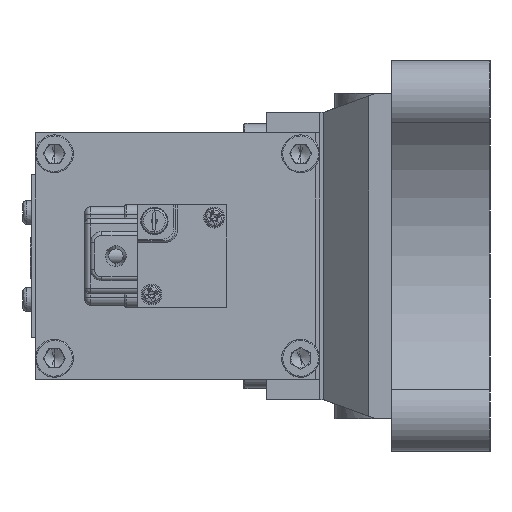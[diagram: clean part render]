
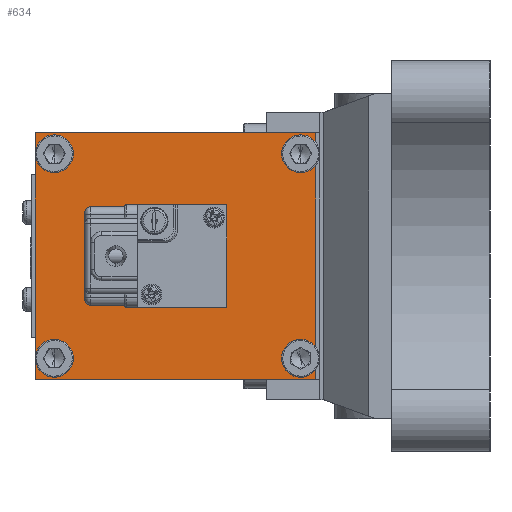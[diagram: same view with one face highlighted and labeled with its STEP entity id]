
A CAD part, left-side view. The second image highlights one B-rep face of the part: STEP entity #634.
In plain terms, the highlighted planar face has unit normal (-1, 0, 0) as drawn and (1, 0, 0) by its records, which use the part's own axes.
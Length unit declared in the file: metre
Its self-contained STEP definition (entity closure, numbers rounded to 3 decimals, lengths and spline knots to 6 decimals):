
#357 = AXIS2_PLACEMENT_3D ( 'NONE', #7548, #12942, #3500 ) ;
#534 = AXIS2_PLACEMENT_3D ( 'NONE', #6110, #15660, #7468 ) ;
#634 = ADVANCED_FACE ( 'NONE', ( #13189, #5969, #6814, #16445, #12748 ), #14386, .F. ) ;
#894 = CARTESIAN_POINT ( 'NONE',  ( 0.08, 0.071, 0.024 ) ) ;
#1059 = ORIENTED_EDGE ( 'NONE', *, *, #12999, .F. ) ;
#1236 = VERTEX_POINT ( 'NONE', #2305 ) ;
#1394 = EDGE_CURVE ( 'NONE', #4933, #13611, #11024, .T. ) ;
#1783 = EDGE_LOOP ( 'NONE', ( #4243, #7474 ) ) ;
#1960 = DIRECTION ( 'NONE',  ( 0., 0., 1. ) ) ;
#2291 = VERTEX_POINT ( 'NONE', #11773 ) ;
#2305 = CARTESIAN_POINT ( 'NONE',  ( 0.08, 0.071, -0.024 ) ) ;
#2536 = ORIENTED_EDGE ( 'NONE', *, *, #1394, .F. ) ;
#2635 = CARTESIAN_POINT ( 'NONE',  ( 0.08, 0.039, 0.0325 ) ) ;
#2669 = VECTOR ( 'NONE', #3836, 1. ) ;
#3051 = EDGE_LOOP ( 'NONE', ( #15614, #1059 ) ) ;
#3072 = EDGE_LOOP ( 'NONE', ( #6473, #3743 ) ) ;
#3500 = DIRECTION ( 'NONE',  ( 0., 0., 1. ) ) ;
#3743 = ORIENTED_EDGE ( 'NONE', *, *, #13129, .F. ) ;
#3797 = DIRECTION ( 'NONE',  ( 1., 0., 0. ) ) ;
#3836 = DIRECTION ( 'NONE',  ( 0., 0., -1. ) ) ;
#4016 = ORIENTED_EDGE ( 'NONE', *, *, #14388, .F. ) ;
#4130 = AXIS2_PLACEMENT_3D ( 'NONE', #6013, #15568, #7382 ) ;
#4243 = ORIENTED_EDGE ( 'NONE', *, *, #12502, .F. ) ;
#4307 = DIRECTION ( 'NONE',  ( 1., 0., 0. ) ) ;
#4561 = CARTESIAN_POINT ( 'NONE',  ( 0.08, 0.039, -0.0325 ) ) ;
#4896 = CIRCLE ( 'NONE', #8022, 0.003 ) ;
#4933 = VERTEX_POINT ( 'NONE', #11488 ) ;
#5086 = AXIS2_PLACEMENT_3D ( 'NONE', #16175, #7972, #17563 ) ;
#5126 = CIRCLE ( 'NONE', #9594, 0.003 ) ;
#5383 = VERTEX_POINT ( 'NONE', #894 ) ;
#5807 = VERTEX_POINT ( 'NONE', #13868 ) ;
#5860 = DIRECTION ( 'NONE',  ( 1., 0., 0. ) ) ;
#5902 = DIRECTION ( 'NONE',  ( 0., -1., 0. ) ) ;
#5969 = FACE_BOUND ( 'NONE', #3072, .T. ) ;
#6013 = CARTESIAN_POINT ( 'NONE',  ( 0.08, 0.006, 0.027 ) ) ;
#6095 = CARTESIAN_POINT ( 'NONE',  ( 0.08, 0.071, -0.027 ) ) ;
#6110 = CARTESIAN_POINT ( 'NONE',  ( 0.08, 0.006, -0.027 ) ) ;
#6473 = ORIENTED_EDGE ( 'NONE', *, *, #9490, .F. ) ;
#6521 = CARTESIAN_POINT ( 'NONE',  ( 0.08, 0.076, -0.0325 ) ) ;
#6669 = VERTEX_POINT ( 'NONE', #8295 ) ;
#6727 = DIRECTION ( 'NONE',  ( 1., 0., 0. ) ) ;
#6814 = FACE_BOUND ( 'NONE', #14643, .T. ) ;
#6959 = CIRCLE ( 'NONE', #4130, 0.003 ) ;
#6979 = CARTESIAN_POINT ( 'NONE',  ( 0.08, 0.002, 0.0325 ) ) ;
#6987 = VECTOR ( 'NONE', #9325, 1. ) ;
#7265 = CARTESIAN_POINT ( 'NONE',  ( 0.08, 0.076, 0. ) ) ;
#7382 = DIRECTION ( 'NONE',  ( 0., 0., -1. ) ) ;
#7428 = VECTOR ( 'NONE', #1960, 1. ) ;
#7454 = DIRECTION ( 'NONE',  ( 0., 0., -1. ) ) ;
#7468 = DIRECTION ( 'NONE',  ( 0., 0., -1. ) ) ;
#7474 = ORIENTED_EDGE ( 'NONE', *, *, #9533, .F. ) ;
#7548 = CARTESIAN_POINT ( 'NONE',  ( 0.08, 0.002, -0.0325 ) ) ;
#7605 = VECTOR ( 'NONE', #5902, 1. ) ;
#7933 = ORIENTED_EDGE ( 'NONE', *, *, #11405, .F. ) ;
#7972 = DIRECTION ( 'NONE',  ( 1., 0., 0. ) ) ;
#7988 = EDGE_CURVE ( 'NONE', #12205, #16025, #16685, .T. ) ;
#8022 = AXIS2_PLACEMENT_3D ( 'NONE', #12395, #4307, #13759 ) ;
#8174 = VERTEX_POINT ( 'NONE', #15105 ) ;
#8269 = CIRCLE ( 'NONE', #9264, 0.003 ) ;
#8295 = CARTESIAN_POINT ( 'NONE',  ( 0.08, 0.071, 0.03 ) ) ;
#9264 = AXIS2_PLACEMENT_3D ( 'NONE', #11875, #3797, #13249 ) ;
#9325 = DIRECTION ( 'NONE',  ( 0., 1., 0. ) ) ;
#9490 = EDGE_CURVE ( 'NONE', #12128, #1236, #13172, .T. ) ;
#9533 = EDGE_CURVE ( 'NONE', #5807, #13741, #5126, .T. ) ;
#9594 = AXIS2_PLACEMENT_3D ( 'NONE', #14881, #6727, #16295 ) ;
#9843 = EDGE_CURVE ( 'NONE', #2291, #8174, #8269, .T. ) ;
#9964 = EDGE_CURVE ( 'NONE', #13611, #12205, #17500, .T. ) ;
#10172 = EDGE_CURVE ( 'NONE', #5383, #6669, #4896, .T. ) ;
#10248 = CARTESIAN_POINT ( 'NONE',  ( 0.08, 0.071, -0.03 ) ) ;
#10428 = CARTESIAN_POINT ( 'NONE',  ( 0.08, 0.076, 0.0325 ) ) ;
#10988 = AXIS2_PLACEMENT_3D ( 'NONE', #13983, #5860, #15405 ) ;
#11024 = LINE ( 'NONE', #15522, #7428 ) ;
#11244 = CARTESIAN_POINT ( 'NONE',  ( 0.08, 0.006, -0.03 ) ) ;
#11405 = EDGE_CURVE ( 'NONE', #16025, #4933, #15733, .T. ) ;
#11488 = CARTESIAN_POINT ( 'NONE',  ( 0.08, 0.002, -0.0325 ) ) ;
#11773 = CARTESIAN_POINT ( 'NONE',  ( 0.08, 0.006, 0.03 ) ) ;
#11875 = CARTESIAN_POINT ( 'NONE',  ( 0.08, 0.006, 0.027 ) ) ;
#12128 = VERTEX_POINT ( 'NONE', #10248 ) ;
#12205 = VERTEX_POINT ( 'NONE', #10428 ) ;
#12395 = CARTESIAN_POINT ( 'NONE',  ( 0.08, 0.071, 0.027 ) ) ;
#12502 = EDGE_CURVE ( 'NONE', #13741, #5807, #15252, .T. ) ;
#12577 = EDGE_LOOP ( 'NONE', ( #13811, #16441, #2536, #7933 ) ) ;
#12748 = FACE_OUTER_BOUND ( 'NONE', #12577, .T. ) ;
#12942 = DIRECTION ( 'NONE',  ( -1., 0., 0. ) ) ;
#12999 = EDGE_CURVE ( 'NONE', #6669, #5383, #16982, .T. ) ;
#13129 = EDGE_CURVE ( 'NONE', #1236, #12128, #15683, .T. ) ;
#13172 = CIRCLE ( 'NONE', #5086, 0.003 ) ;
#13189 = FACE_BOUND ( 'NONE', #3051, .T. ) ;
#13249 = DIRECTION ( 'NONE',  ( 0., 0., -1. ) ) ;
#13611 = VERTEX_POINT ( 'NONE', #6979 ) ;
#13741 = VERTEX_POINT ( 'NONE', #11244 ) ;
#13759 = DIRECTION ( 'NONE',  ( 0., 0., -1. ) ) ;
#13811 = ORIENTED_EDGE ( 'NONE', *, *, #7988, .F. ) ;
#13868 = CARTESIAN_POINT ( 'NONE',  ( 0.08, 0.006, -0.024 ) ) ;
#13983 = CARTESIAN_POINT ( 'NONE',  ( 0.08, 0.071, 0.027 ) ) ;
#14386 = PLANE ( 'NONE',  #357 ) ;
#14388 = EDGE_CURVE ( 'NONE', #8174, #2291, #6959, .T. ) ;
#14643 = EDGE_LOOP ( 'NONE', ( #4016, #15990 ) ) ;
#14663 = AXIS2_PLACEMENT_3D ( 'NONE', #6095, #15645, #7454 ) ;
#14881 = CARTESIAN_POINT ( 'NONE',  ( 0.08, 0.006, -0.027 ) ) ;
#15105 = CARTESIAN_POINT ( 'NONE',  ( 0.08, 0.006, 0.024 ) ) ;
#15252 = CIRCLE ( 'NONE', #534, 0.003 ) ;
#15405 = DIRECTION ( 'NONE',  ( 0., 0., -1. ) ) ;
#15522 = CARTESIAN_POINT ( 'NONE',  ( 0.08, 0.002, 0. ) ) ;
#15568 = DIRECTION ( 'NONE',  ( 1., 0., 0. ) ) ;
#15614 = ORIENTED_EDGE ( 'NONE', *, *, #10172, .F. ) ;
#15645 = DIRECTION ( 'NONE',  ( 1., 0., 0. ) ) ;
#15660 = DIRECTION ( 'NONE',  ( 1., 0., 0. ) ) ;
#15683 = CIRCLE ( 'NONE', #14663, 0.003 ) ;
#15733 = LINE ( 'NONE', #4561, #7605 ) ;
#15990 = ORIENTED_EDGE ( 'NONE', *, *, #9843, .F. ) ;
#16025 = VERTEX_POINT ( 'NONE', #6521 ) ;
#16175 = CARTESIAN_POINT ( 'NONE',  ( 0.08, 0.071, -0.027 ) ) ;
#16295 = DIRECTION ( 'NONE',  ( 0., 0., -1. ) ) ;
#16441 = ORIENTED_EDGE ( 'NONE', *, *, #9964, .F. ) ;
#16445 = FACE_BOUND ( 'NONE', #1783, .T. ) ;
#16685 = LINE ( 'NONE', #7265, #2669 ) ;
#16982 = CIRCLE ( 'NONE', #10988, 0.003 ) ;
#17500 = LINE ( 'NONE', #2635, #6987 ) ;
#17563 = DIRECTION ( 'NONE',  ( 0., 0., -1. ) ) ;
